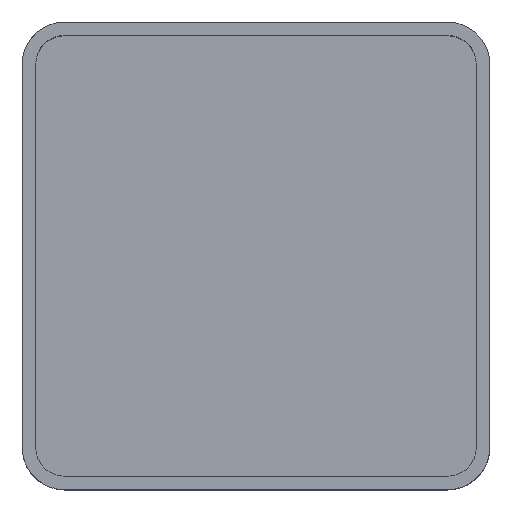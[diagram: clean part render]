
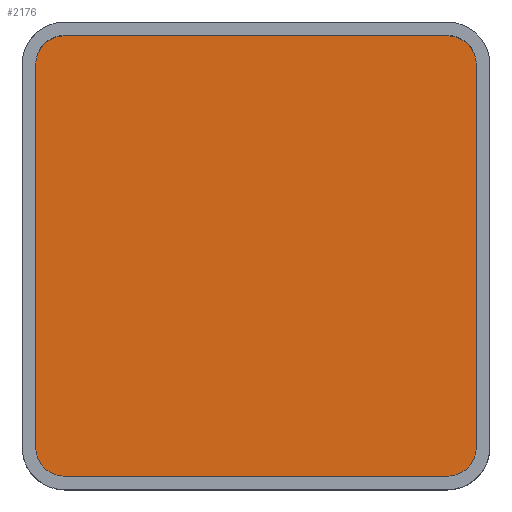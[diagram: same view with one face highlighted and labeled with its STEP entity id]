
A CAD part, top view. The second image highlights one B-rep face of the part: STEP entity #2176.
In plain terms, the highlighted planar face has unit normal (0, 0, 1).
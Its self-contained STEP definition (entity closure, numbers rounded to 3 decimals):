
#1442 = PLANE('',#1443);
#1443 = AXIS2_PLACEMENT_3D('',#1444,#1445,#1446);
#1444 = CARTESIAN_POINT('',(-19.55,-17.,4.75));
#1445 = DIRECTION('',(-1.,0.,0.));
#1446 = DIRECTION('',(0.,1.,0.));
#1474 = CYLINDRICAL_SURFACE('',#1475,2.55);
#1475 = AXIS2_PLACEMENT_3D('',#1476,#1477,#1478);
#1476 = CARTESIAN_POINT('',(-17.,17.,4.75));
#1477 = DIRECTION('',(-0.,-0.,-1.));
#1478 = DIRECTION('',(1.,0.,0.));
#1501 = PLANE('',#1502);
#1502 = AXIS2_PLACEMENT_3D('',#1503,#1504,#1505);
#1503 = CARTESIAN_POINT('',(-17.,19.55,4.75));
#1504 = DIRECTION('',(0.,1.,0.));
#1505 = DIRECTION('',(1.,0.,0.));
#1533 = CYLINDRICAL_SURFACE('',#1534,2.55);
#1534 = AXIS2_PLACEMENT_3D('',#1535,#1536,#1537);
#1535 = CARTESIAN_POINT('',(17.,17.,4.75));
#1536 = DIRECTION('',(-0.,-0.,-1.));
#1537 = DIRECTION('',(1.,0.,0.));
#1560 = PLANE('',#1561);
#1561 = AXIS2_PLACEMENT_3D('',#1562,#1563,#1564);
#1562 = CARTESIAN_POINT('',(19.55,-17.,4.75));
#1563 = DIRECTION('',(-1.,0.,0.));
#1564 = DIRECTION('',(0.,1.,0.));
#1592 = CYLINDRICAL_SURFACE('',#1593,2.55);
#1593 = AXIS2_PLACEMENT_3D('',#1594,#1595,#1596);
#1594 = CARTESIAN_POINT('',(17.,-17.,4.75));
#1595 = DIRECTION('',(-0.,-0.,-1.));
#1596 = DIRECTION('',(1.,0.,0.));
#1619 = PLANE('',#1620);
#1620 = AXIS2_PLACEMENT_3D('',#1621,#1622,#1623);
#1621 = CARTESIAN_POINT('',(-17.,-19.55,4.75));
#1622 = DIRECTION('',(0.,1.,0.));
#1623 = DIRECTION('',(1.,0.,0.));
#1649 = CYLINDRICAL_SURFACE('',#1650,2.55);
#1650 = AXIS2_PLACEMENT_3D('',#1651,#1652,#1653);
#1651 = CARTESIAN_POINT('',(-17.,-17.,4.75));
#1652 = DIRECTION('',(-0.,-0.,-1.));
#1653 = DIRECTION('',(1.,0.,0.));
#1779 = EDGE_CURVE('',#1780,#1782,#1784,.T.);
#1780 = VERTEX_POINT('',#1781);
#1781 = CARTESIAN_POINT('',(-19.55,-17.,4.75));
#1782 = VERTEX_POINT('',#1783);
#1783 = CARTESIAN_POINT('',(-19.55,17.,4.75));
#1784 = SURFACE_CURVE('',#1785,(#1789,#1796),.PCURVE_S1.);
#1785 = LINE('',#1786,#1787);
#1786 = CARTESIAN_POINT('',(-19.55,0.,4.75));
#1787 = VECTOR('',#1788,1.);
#1788 = DIRECTION('',(0.,1.,0.));
#1789 = PCURVE('',#1442,#1790);
#1790 = DEFINITIONAL_REPRESENTATION('',(#1791),#1795);
#1791 = LINE('',#1792,#1793);
#1792 = CARTESIAN_POINT('',(17.,0.));
#1793 = VECTOR('',#1794,1.);
#1794 = DIRECTION('',(1.,0.));
#1795 = ( GEOMETRIC_REPRESENTATION_CONTEXT(2) 
PARAMETRIC_REPRESENTATION_CONTEXT() REPRESENTATION_CONTEXT('2D SPACE',''
  ) );
#1796 = PCURVE('',#1797,#1802);
#1797 = PLANE('',#1798);
#1798 = AXIS2_PLACEMENT_3D('',#1799,#1800,#1801);
#1799 = CARTESIAN_POINT('',(0.,0.,4.75)
  );
#1800 = DIRECTION('',(0.,0.,1.));
#1801 = DIRECTION('',(1.,0.,-0.));
#1802 = DEFINITIONAL_REPRESENTATION('',(#1803),#1807);
#1803 = LINE('',#1804,#1805);
#1804 = CARTESIAN_POINT('',(-19.55,0.));
#1805 = VECTOR('',#1806,1.);
#1806 = DIRECTION('',(0.,1.));
#1807 = ( GEOMETRIC_REPRESENTATION_CONTEXT(2) 
PARAMETRIC_REPRESENTATION_CONTEXT() REPRESENTATION_CONTEXT('2D SPACE',''
  ) );
#1855 = EDGE_CURVE('',#1780,#1856,#1858,.T.);
#1856 = VERTEX_POINT('',#1857);
#1857 = CARTESIAN_POINT('',(-17.,-19.55,4.75));
#1858 = SURFACE_CURVE('',#1859,(#1864,#1871),.PCURVE_S1.);
#1859 = CIRCLE('',#1860,2.55);
#1860 = AXIS2_PLACEMENT_3D('',#1861,#1862,#1863);
#1861 = CARTESIAN_POINT('',(-17.,-17.,4.75));
#1862 = DIRECTION('',(0.,0.,1.));
#1863 = DIRECTION('',(1.,0.,0.));
#1864 = PCURVE('',#1649,#1865);
#1865 = DEFINITIONAL_REPRESENTATION('',(#1866),#1870);
#1866 = LINE('',#1867,#1868);
#1867 = CARTESIAN_POINT('',(-0.,0.));
#1868 = VECTOR('',#1869,1.);
#1869 = DIRECTION('',(-1.,0.));
#1870 = ( GEOMETRIC_REPRESENTATION_CONTEXT(2) 
PARAMETRIC_REPRESENTATION_CONTEXT() REPRESENTATION_CONTEXT('2D SPACE',''
  ) );
#1871 = PCURVE('',#1797,#1872);
#1872 = DEFINITIONAL_REPRESENTATION('',(#1873),#1877);
#1873 = CIRCLE('',#1874,2.55);
#1874 = AXIS2_PLACEMENT_2D('',#1875,#1876);
#1875 = CARTESIAN_POINT('',(-17.,-17.));
#1876 = DIRECTION('',(1.,0.));
#1877 = ( GEOMETRIC_REPRESENTATION_CONTEXT(2) 
PARAMETRIC_REPRESENTATION_CONTEXT() REPRESENTATION_CONTEXT('2D SPACE',''
  ) );
#1905 = EDGE_CURVE('',#1856,#1906,#1908,.T.);
#1906 = VERTEX_POINT('',#1907);
#1907 = CARTESIAN_POINT('',(17.,-19.55,4.75));
#1908 = SURFACE_CURVE('',#1909,(#1913,#1920),.PCURVE_S1.);
#1909 = LINE('',#1910,#1911);
#1910 = CARTESIAN_POINT('',(0.,-19.55,4.75));
#1911 = VECTOR('',#1912,1.);
#1912 = DIRECTION('',(1.,0.,0.));
#1913 = PCURVE('',#1619,#1914);
#1914 = DEFINITIONAL_REPRESENTATION('',(#1915),#1919);
#1915 = LINE('',#1916,#1917);
#1916 = CARTESIAN_POINT('',(17.,0.));
#1917 = VECTOR('',#1918,1.);
#1918 = DIRECTION('',(1.,0.));
#1919 = ( GEOMETRIC_REPRESENTATION_CONTEXT(2) 
PARAMETRIC_REPRESENTATION_CONTEXT() REPRESENTATION_CONTEXT('2D SPACE',''
  ) );
#1920 = PCURVE('',#1797,#1921);
#1921 = DEFINITIONAL_REPRESENTATION('',(#1922),#1926);
#1922 = LINE('',#1923,#1924);
#1923 = CARTESIAN_POINT('',(0.,-19.55));
#1924 = VECTOR('',#1925,1.);
#1925 = DIRECTION('',(1.,0.));
#1926 = ( GEOMETRIC_REPRESENTATION_CONTEXT(2) 
PARAMETRIC_REPRESENTATION_CONTEXT() REPRESENTATION_CONTEXT('2D SPACE',''
  ) );
#1954 = EDGE_CURVE('',#1906,#1955,#1957,.T.);
#1955 = VERTEX_POINT('',#1956);
#1956 = CARTESIAN_POINT('',(19.55,-17.,4.75));
#1957 = SURFACE_CURVE('',#1958,(#1963,#1970),.PCURVE_S1.);
#1958 = CIRCLE('',#1959,2.55);
#1959 = AXIS2_PLACEMENT_3D('',#1960,#1961,#1962);
#1960 = CARTESIAN_POINT('',(17.,-17.,4.75));
#1961 = DIRECTION('',(0.,0.,1.));
#1962 = DIRECTION('',(1.,0.,0.));
#1963 = PCURVE('',#1592,#1964);
#1964 = DEFINITIONAL_REPRESENTATION('',(#1965),#1969);
#1965 = LINE('',#1966,#1967);
#1966 = CARTESIAN_POINT('',(-0.,0.));
#1967 = VECTOR('',#1968,1.);
#1968 = DIRECTION('',(-1.,0.));
#1969 = ( GEOMETRIC_REPRESENTATION_CONTEXT(2) 
PARAMETRIC_REPRESENTATION_CONTEXT() REPRESENTATION_CONTEXT('2D SPACE',''
  ) );
#1970 = PCURVE('',#1797,#1971);
#1971 = DEFINITIONAL_REPRESENTATION('',(#1972),#1976);
#1972 = CIRCLE('',#1973,2.55);
#1973 = AXIS2_PLACEMENT_2D('',#1974,#1975);
#1974 = CARTESIAN_POINT('',(17.,-17.));
#1975 = DIRECTION('',(1.,0.));
#1976 = ( GEOMETRIC_REPRESENTATION_CONTEXT(2) 
PARAMETRIC_REPRESENTATION_CONTEXT() REPRESENTATION_CONTEXT('2D SPACE',''
  ) );
#2004 = EDGE_CURVE('',#1955,#2005,#2007,.T.);
#2005 = VERTEX_POINT('',#2006);
#2006 = CARTESIAN_POINT('',(19.55,17.,4.75));
#2007 = SURFACE_CURVE('',#2008,(#2012,#2019),.PCURVE_S1.);
#2008 = LINE('',#2009,#2010);
#2009 = CARTESIAN_POINT('',(19.55,0.,4.75));
#2010 = VECTOR('',#2011,1.);
#2011 = DIRECTION('',(0.,1.,0.));
#2012 = PCURVE('',#1560,#2013);
#2013 = DEFINITIONAL_REPRESENTATION('',(#2014),#2018);
#2014 = LINE('',#2015,#2016);
#2015 = CARTESIAN_POINT('',(17.,0.));
#2016 = VECTOR('',#2017,1.);
#2017 = DIRECTION('',(1.,0.));
#2018 = ( GEOMETRIC_REPRESENTATION_CONTEXT(2) 
PARAMETRIC_REPRESENTATION_CONTEXT() REPRESENTATION_CONTEXT('2D SPACE',''
  ) );
#2019 = PCURVE('',#1797,#2020);
#2020 = DEFINITIONAL_REPRESENTATION('',(#2021),#2025);
#2021 = LINE('',#2022,#2023);
#2022 = CARTESIAN_POINT('',(19.55,0.));
#2023 = VECTOR('',#2024,1.);
#2024 = DIRECTION('',(0.,1.));
#2025 = ( GEOMETRIC_REPRESENTATION_CONTEXT(2) 
PARAMETRIC_REPRESENTATION_CONTEXT() REPRESENTATION_CONTEXT('2D SPACE',''
  ) );
#2053 = EDGE_CURVE('',#2005,#2054,#2056,.T.);
#2054 = VERTEX_POINT('',#2055);
#2055 = CARTESIAN_POINT('',(17.,19.55,4.75));
#2056 = SURFACE_CURVE('',#2057,(#2062,#2069),.PCURVE_S1.);
#2057 = CIRCLE('',#2058,2.55);
#2058 = AXIS2_PLACEMENT_3D('',#2059,#2060,#2061);
#2059 = CARTESIAN_POINT('',(17.,17.,4.75));
#2060 = DIRECTION('',(0.,0.,1.));
#2061 = DIRECTION('',(1.,0.,0.));
#2062 = PCURVE('',#1533,#2063);
#2063 = DEFINITIONAL_REPRESENTATION('',(#2064),#2068);
#2064 = LINE('',#2065,#2066);
#2065 = CARTESIAN_POINT('',(-0.,0.));
#2066 = VECTOR('',#2067,1.);
#2067 = DIRECTION('',(-1.,0.));
#2068 = ( GEOMETRIC_REPRESENTATION_CONTEXT(2) 
PARAMETRIC_REPRESENTATION_CONTEXT() REPRESENTATION_CONTEXT('2D SPACE',''
  ) );
#2069 = PCURVE('',#1797,#2070);
#2070 = DEFINITIONAL_REPRESENTATION('',(#2071),#2075);
#2071 = CIRCLE('',#2072,2.55);
#2072 = AXIS2_PLACEMENT_2D('',#2073,#2074);
#2073 = CARTESIAN_POINT('',(17.,17.));
#2074 = DIRECTION('',(1.,0.));
#2075 = ( GEOMETRIC_REPRESENTATION_CONTEXT(2) 
PARAMETRIC_REPRESENTATION_CONTEXT() REPRESENTATION_CONTEXT('2D SPACE',''
  ) );
#2103 = EDGE_CURVE('',#2104,#2054,#2106,.T.);
#2104 = VERTEX_POINT('',#2105);
#2105 = CARTESIAN_POINT('',(-17.,19.55,4.75));
#2106 = SURFACE_CURVE('',#2107,(#2111,#2118),.PCURVE_S1.);
#2107 = LINE('',#2108,#2109);
#2108 = CARTESIAN_POINT('',(0.,19.55,4.75));
#2109 = VECTOR('',#2110,1.);
#2110 = DIRECTION('',(1.,0.,0.));
#2111 = PCURVE('',#1501,#2112);
#2112 = DEFINITIONAL_REPRESENTATION('',(#2113),#2117);
#2113 = LINE('',#2114,#2115);
#2114 = CARTESIAN_POINT('',(17.,0.));
#2115 = VECTOR('',#2116,1.);
#2116 = DIRECTION('',(1.,0.));
#2117 = ( GEOMETRIC_REPRESENTATION_CONTEXT(2) 
PARAMETRIC_REPRESENTATION_CONTEXT() REPRESENTATION_CONTEXT('2D SPACE',''
  ) );
#2118 = PCURVE('',#1797,#2119);
#2119 = DEFINITIONAL_REPRESENTATION('',(#2120),#2124);
#2120 = LINE('',#2121,#2122);
#2121 = CARTESIAN_POINT('',(0.,19.55));
#2122 = VECTOR('',#2123,1.);
#2123 = DIRECTION('',(1.,0.));
#2124 = ( GEOMETRIC_REPRESENTATION_CONTEXT(2) 
PARAMETRIC_REPRESENTATION_CONTEXT() REPRESENTATION_CONTEXT('2D SPACE',''
  ) );
#2152 = EDGE_CURVE('',#2104,#1782,#2153,.T.);
#2153 = SURFACE_CURVE('',#2154,(#2159,#2166),.PCURVE_S1.);
#2154 = CIRCLE('',#2155,2.55);
#2155 = AXIS2_PLACEMENT_3D('',#2156,#2157,#2158);
#2156 = CARTESIAN_POINT('',(-17.,17.,4.75));
#2157 = DIRECTION('',(0.,0.,1.));
#2158 = DIRECTION('',(1.,0.,0.));
#2159 = PCURVE('',#1474,#2160);
#2160 = DEFINITIONAL_REPRESENTATION('',(#2161),#2165);
#2161 = LINE('',#2162,#2163);
#2162 = CARTESIAN_POINT('',(-0.,0.));
#2163 = VECTOR('',#2164,1.);
#2164 = DIRECTION('',(-1.,0.));
#2165 = ( GEOMETRIC_REPRESENTATION_CONTEXT(2) 
PARAMETRIC_REPRESENTATION_CONTEXT() REPRESENTATION_CONTEXT('2D SPACE',''
  ) );
#2166 = PCURVE('',#1797,#2167);
#2167 = DEFINITIONAL_REPRESENTATION('',(#2168),#2172);
#2168 = CIRCLE('',#2169,2.55);
#2169 = AXIS2_PLACEMENT_2D('',#2170,#2171);
#2170 = CARTESIAN_POINT('',(-17.,17.));
#2171 = DIRECTION('',(1.,0.));
#2172 = ( GEOMETRIC_REPRESENTATION_CONTEXT(2) 
PARAMETRIC_REPRESENTATION_CONTEXT() REPRESENTATION_CONTEXT('2D SPACE',''
  ) );
#2176 = ADVANCED_FACE('',(#2177),#1797,.T.);
#2177 = FACE_BOUND('',#2178,.T.);
#2178 = EDGE_LOOP('',(#2179,#2180,#2181,#2182,#2183,#2184,#2185,#2186));
#2179 = ORIENTED_EDGE('',*,*,#1779,.F.);
#2180 = ORIENTED_EDGE('',*,*,#1855,.T.);
#2181 = ORIENTED_EDGE('',*,*,#1905,.T.);
#2182 = ORIENTED_EDGE('',*,*,#1954,.T.);
#2183 = ORIENTED_EDGE('',*,*,#2004,.T.);
#2184 = ORIENTED_EDGE('',*,*,#2053,.T.);
#2185 = ORIENTED_EDGE('',*,*,#2103,.F.);
#2186 = ORIENTED_EDGE('',*,*,#2152,.T.);
